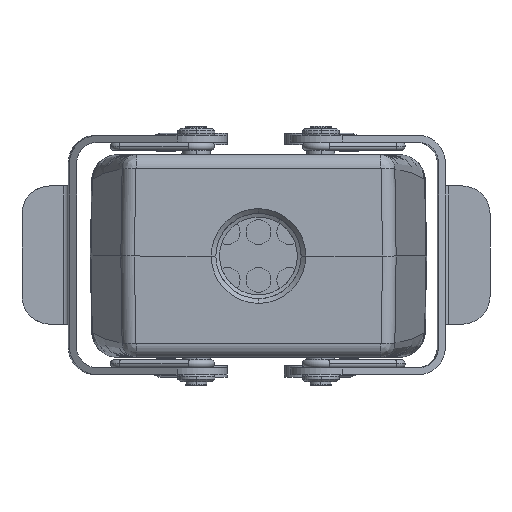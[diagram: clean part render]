
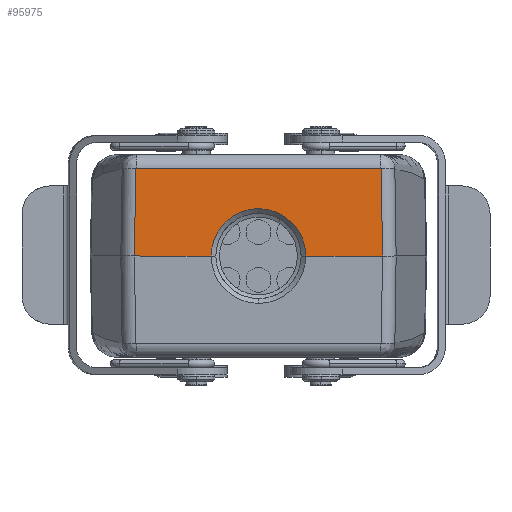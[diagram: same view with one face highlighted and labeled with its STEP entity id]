
A CAD part, front view. The second image highlights one B-rep face of the part: STEP entity #95975.
In plain terms, the highlighted planar face has unit normal (0, -1, 0.018) as drawn and (-0.009, 1, 0.017) by its records, which use the part's own axes.
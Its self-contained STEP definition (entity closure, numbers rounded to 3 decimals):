
#5115 = LINE ( 'NONE', #48591, #55412 ) ;
#7733 = CARTESIAN_POINT ( 'NONE',  ( -10.745, 59.879, -0.2 ) ) ;
#9057 = CARTESIAN_POINT ( 'NONE',  ( 26.159, 59.889, 18.717 ) ) ;
#10675 = CARTESIAN_POINT ( 'NONE',  ( 26.159, 59.889, 18.717 ) ) ;
#10698 = CARTESIAN_POINT ( 'NONE',  ( 9.236, 60.005, 3.106 ) ) ;
#11016 = CARTESIAN_POINT ( 'NONE',  ( -27.144, 59.396, 18.759 ) ) ;
#11697 = PLANE ( 'NONE',  #108583 ) ;
#13526 = CARTESIAN_POINT ( 'NONE',  ( 8.723, 59.979, 4.35 ) ) ;
#14159 = VERTEX_POINT ( 'NONE', #25150 ) ;
#15329 = VERTEX_POINT ( 'NONE', #124184 ) ;
#16302 = CARTESIAN_POINT ( 'NONE',  ( 0.181, 59.8, 10.067 ) ) ;
#17570 = B_SPLINE_CURVE_WITH_KNOTS ( 'NONE', 3,
 ( #36277, #39766, #138950, #62618, #83366, #64015, #126883, #104782, #116191, #105483, #30506, #71952, #138255, #106198, #29115, #41168, #18409, #7733 ),
 .UNSPECIFIED., .F., .F.,
 ( 4, 2, 2, 2, 2, 2, 2, 2, 4 ),
 ( 0., 0.125, 0.25, 0.375, 0.5, 0.625, 0.75, 0.875, 1. ),
 .UNSPECIFIED. ) ;
#17717 = EDGE_CURVE ( 'NONE', #34407, #77781, #67278, .T. ) ;
#18409 = CARTESIAN_POINT ( 'NONE',  ( -10.746, 59.867, 0.474 ) ) ;
#21735 = CARTESIAN_POINT ( 'NONE',  ( -27.049, 59.396, 18.852 ) ) ;
#22380 = ORIENTED_EDGE ( 'NONE', *, *, #69731, .T. ) ;
#22421 = CARTESIAN_POINT ( 'NONE',  ( -27.013, 59.396, 18.852 ) ) ;
#23498 = LINE ( 'NONE', #57687, #67394 ) ;
#23806 = DIRECTION ( 'NONE',  ( -0.009, 1., 0.017 ) ) ;
#25150 = CARTESIAN_POINT ( 'NONE',  ( -0.492, 59.794, 10.067 ) ) ;
#28195 = CARTESIAN_POINT ( 'NONE',  ( 26.021, 59.885, 18.852 ) ) ;
#29115 = CARTESIAN_POINT ( 'NONE',  ( -10.42, 59.835, 2.464 ) ) ;
#30441 = CARTESIAN_POINT ( 'NONE',  ( 26.091, 59.886, 18.839 ) ) ;
#30506 = CARTESIAN_POINT ( 'NONE',  ( -8.648, 59.789, 6.064 ) ) ;
#32026 = CARTESIAN_POINT ( 'NONE',  ( -27.013, 59.396, 18.852 ) ) ;
#34407 = VERTEX_POINT ( 'NONE', #138704 ) ;
#36277 = CARTESIAN_POINT ( 'NONE',  ( -0.492, 59.794, 10.067 ) ) ;
#37881 = B_SPLINE_CURVE_WITH_KNOTS ( 'NONE', 3,
 ( #140131, #11016, #98732, #99456, #21735, #22421 ),
 .UNSPECIFIED., .F., .F.,
 ( 4, 2, 4 ),
 ( 0., 0.5, 1. ),
 .UNSPECIFIED. ) ;
#39766 = CARTESIAN_POINT ( 'NONE',  ( -1.165, 59.788, 10.068 ) ) ;
#39958 = CARTESIAN_POINT ( 'NONE',  ( -27.144, 59.397, 18.723 ) ) ;
#40102 = EDGE_CURVE ( 'NONE', #15329, #133787, #119478, .T. ) ;
#41168 = CARTESIAN_POINT ( 'NONE',  ( -10.681, 59.856, 1.142 ) ) ;
#43427 = CARTESIAN_POINT ( 'NONE',  ( 2.811, 59.834, 9.543 ) ) ;
#43932 = EDGE_CURVE ( 'NONE', #57538, #58401, #97029, .T. ) ;
#45817 = DIRECTION ( 'NONE',  ( -1., -0.009, 0. ) ) ;
#46283 = CARTESIAN_POINT ( 'NONE',  ( 7.235, 59.926, 6.582 ) ) ;
#46534 = CARTESIAN_POINT ( 'NONE',  ( -76.939, 59.268, -0.2 ) ) ;
#48591 = CARTESIAN_POINT ( 'NONE',  ( 26.433, 60.222, -0.2 ) ) ;
#51235 = ORIENTED_EDGE ( 'NONE', *, *, #72052, .F. ) ;
#51352 = CARTESIAN_POINT ( 'NONE',  ( -27.144, 59.397, 18.723 ) ) ;
#51680 = B_SPLINE_CURVE_WITH_KNOTS ( 'NONE', 3,
 ( #119872, #67037, #78419, #122000, #10698, #13526, #56977, #100530, #46283, #89848, #141190, #122691, #68432, #43427, #87005, #130498, #16302, #136834 ),
 .UNSPECIFIED., .F., .F.,
 ( 4, 2, 2, 2, 2, 2, 2, 2, 4 ),
 ( 0., 0.125, 0.25, 0.375, 0.5, 0.625, 0.75, 0.875, 1. ),
 .UNSPECIFIED. ) ;
#54466 = DIRECTION ( 'NONE',  ( -1., -0.009, 0. ) ) ;
#55412 = VECTOR ( 'NONE', #92134, 1000. ) ;
#56149 = ORIENTED_EDGE ( 'NONE', *, *, #17717, .T. ) ;
#56977 = CARTESIAN_POINT ( 'NONE',  ( 8.407, 59.966, 4.942 ) ) ;
#57538 = VERTEX_POINT ( 'NONE', #28195 ) ;
#57687 = CARTESIAN_POINT ( 'NONE',  ( -76.936, 58.936, 18.852 ) ) ;
#58401 = VERTEX_POINT ( 'NONE', #10675 ) ;
#60598 = VECTOR ( 'NONE', #54466, 1000. ) ;
#62618 = CARTESIAN_POINT ( 'NONE',  ( -3.154, 59.775, 9.739 ) ) ;
#64015 = CARTESIAN_POINT ( 'NONE',  ( -5.04, 59.77, 9.029 ) ) ;
#65899 = DIRECTION ( 'NONE',  ( 0.884, 0., 0.467 ) ) ;
#67037 = CARTESIAN_POINT ( 'NONE',  ( 9.755, 60.056, 0.474 ) ) ;
#67278 = LINE ( 'NONE', #46534, #112800 ) ;
#67394 = VECTOR ( 'NONE', #78415, 1000. ) ;
#68432 = CARTESIAN_POINT ( 'NONE',  ( 4.056, 59.854, 9.027 ) ) ;
#69731 = EDGE_CURVE ( 'NONE', #72143, #79703, #37881, .T. ) ;
#71952 = CARTESIAN_POINT ( 'NONE',  ( -9.396, 59.801, 4.944 ) ) ;
#72052 = EDGE_CURVE ( 'NONE', #15329, #58401, #5115, .T. ) ;
#72143 = VERTEX_POINT ( 'NONE', #39958 ) ;
#72690 = ORIENTED_EDGE ( 'NONE', *, *, #112447, .T. ) ;
#73987 = CARTESIAN_POINT ( 'NONE',  ( 26.145, 59.887, 18.787 ) ) ;
#76446 = CARTESIAN_POINT ( 'NONE',  ( 9.754, 60.068, -0.2 ) ) ;
#77781 = VERTEX_POINT ( 'NONE', #101352 ) ;
#78415 = DIRECTION ( 'NONE',  ( 1., 0.009, 0. ) ) ;
#78419 = CARTESIAN_POINT ( 'NONE',  ( 9.69, 60.044, 1.142 ) ) ;
#79703 = VERTEX_POINT ( 'NONE', #32026 ) ;
#83366 = CARTESIAN_POINT ( 'NONE',  ( -3.797, 59.773, 9.544 ) ) ;
#87005 = CARTESIAN_POINT ( 'NONE',  ( 2.17, 59.824, 9.738 ) ) ;
#89848 = CARTESIAN_POINT ( 'NONE',  ( 6.284, 59.901, 7.535 ) ) ;
#90891 = ORIENTED_EDGE ( 'NONE', *, *, #43932, .T. ) ;
#91787 = EDGE_CURVE ( 'NONE', #133787, #14159, #51680, .T. ) ;
#91874 = EDGE_CURVE ( 'NONE', #14159, #34407, #17570, .T. ) ;
#92134 = DIRECTION ( 'NONE',  ( -0.014, -0.018, 1. ) ) ;
#94243 = ORIENTED_EDGE ( 'NONE', *, *, #91874, .T. ) ;
#95975 = ADVANCED_FACE ( 'NONE', ( #120161 ), #11697, .T. ) ;
#97029 = B_SPLINE_CURVE_WITH_KNOTS ( 'NONE', 3,
 ( #118939, #106828, #30441, #73987, #117545, #9057 ),
 .UNSPECIFIED., .F., .F.,
 ( 4, 2, 4 ),
 ( 0., 0.5, 1. ),
 .UNSPECIFIED. ) ;
#98732 = CARTESIAN_POINT ( 'NONE',  ( -27.13, 59.396, 18.79 ) ) ;
#99456 = CARTESIAN_POINT ( 'NONE',  ( -27.08, 59.396, 18.84 ) ) ;
#100530 = CARTESIAN_POINT ( 'NONE',  ( 7.66, 59.939, 6.063 ) ) ;
#101352 = CARTESIAN_POINT ( 'NONE',  ( -27.425, 59.725, -0.2 ) ) ;
#104782 = CARTESIAN_POINT ( 'NONE',  ( -6.752, 59.773, 7.963 ) ) ;
#104913 = CARTESIAN_POINT ( 'NONE',  ( -27.238, 59.506, 12.416 ) ) ;
#105483 = CARTESIAN_POINT ( 'NONE',  ( -8.223, 59.784, 6.584 ) ) ;
#105616 = CARTESIAN_POINT ( 'NONE',  ( -27.425, 59.725, -0.2 ) ) ;
#106198 = CARTESIAN_POINT ( 'NONE',  ( -10.226, 59.826, 3.106 ) ) ;
#106828 = CARTESIAN_POINT ( 'NONE',  ( 26.058, 59.886, 18.852 ) ) ;
#108583 = AXIS2_PLACEMENT_3D ( 'NONE', #119459, #23806, #65899 ) ;
#112447 = EDGE_CURVE ( 'NONE', #79703, #57538, #23498, .T. ) ;
#112800 = VECTOR ( 'NONE', #45817, 1000. ) ;
#113074 = ORIENTED_EDGE ( 'NONE', *, *, #91787, .T. ) ;
#113620 = ORIENTED_EDGE ( 'NONE', *, *, #40102, .T. ) ;
#114219 = CARTESIAN_POINT ( 'NONE',  ( -27.331, 59.616, 6.108 ) ) ;
#116191 = CARTESIAN_POINT ( 'NONE',  ( -7.271, 59.776, 7.537 ) ) ;
#117545 = CARTESIAN_POINT ( 'NONE',  ( 26.159, 59.888, 18.755 ) ) ;
#118939 = CARTESIAN_POINT ( 'NONE',  ( 26.021, 59.885, 18.852 ) ) ;
#119031 = EDGE_CURVE ( 'NONE', #72143, #77781, #131483, .T. ) ;
#119459 = CARTESIAN_POINT ( 'NONE',  ( -76.939, 59.268, -0.2 ) ) ;
#119478 = LINE ( 'NONE', #130813, #60598 ) ;
#119872 = CARTESIAN_POINT ( 'NONE',  ( 9.754, 60.068, -0.2 ) ) ;
#120161 = FACE_OUTER_BOUND ( 'NONE', #139447, .T. ) ;
#122000 = CARTESIAN_POINT ( 'NONE',  ( 9.43, 60.018, 2.463 ) ) ;
#122691 = CARTESIAN_POINT ( 'NONE',  ( 4.646, 59.865, 8.711 ) ) ;
#124184 = CARTESIAN_POINT ( 'NONE',  ( 26.433, 60.222, -0.2 ) ) ;
#126883 = CARTESIAN_POINT ( 'NONE',  ( -5.633, 59.77, 8.712 ) ) ;
#128191 = ORIENTED_EDGE ( 'NONE', *, *, #119031, .F. ) ;
#130498 = CARTESIAN_POINT ( 'NONE',  ( 0.848, 59.808, 10.001 ) ) ;
#130813 = CARTESIAN_POINT ( 'NONE',  ( -76.939, 59.268, -0.2 ) ) ;
#131483 = B_SPLINE_CURVE_WITH_KNOTS ( 'NONE', 3,
 ( #51352, #104913, #114219, #105616 ),
 .UNSPECIFIED., .F., .F.,
 ( 4, 4 ),
 ( 0., 1. ),
 .UNSPECIFIED. ) ;
#133787 = VERTEX_POINT ( 'NONE', #76446 ) ;
#136834 = CARTESIAN_POINT ( 'NONE',  ( -0.492, 59.794, 10.067 ) ) ;
#138255 = CARTESIAN_POINT ( 'NONE',  ( -9.712, 59.809, 4.352 ) ) ;
#138704 = CARTESIAN_POINT ( 'NONE',  ( -10.745, 59.879, -0.2 ) ) ;
#138950 = CARTESIAN_POINT ( 'NONE',  ( -1.834, 59.783, 10.002 ) ) ;
#139447 = EDGE_LOOP ( 'NONE', ( #90891, #51235, #113620, #113074, #94243, #56149, #128191, #22380, #72690 ) ) ;
#140131 = CARTESIAN_POINT ( 'NONE',  ( -27.144, 59.397, 18.723 ) ) ;
#141190 = CARTESIAN_POINT ( 'NONE',  ( 5.766, 59.888, 7.961 ) ) ;
